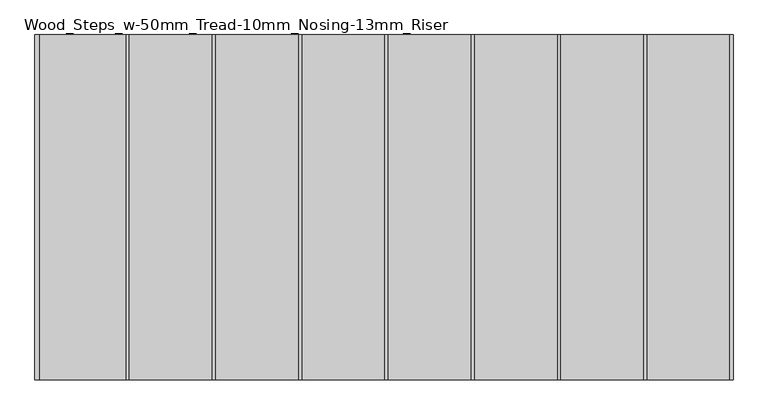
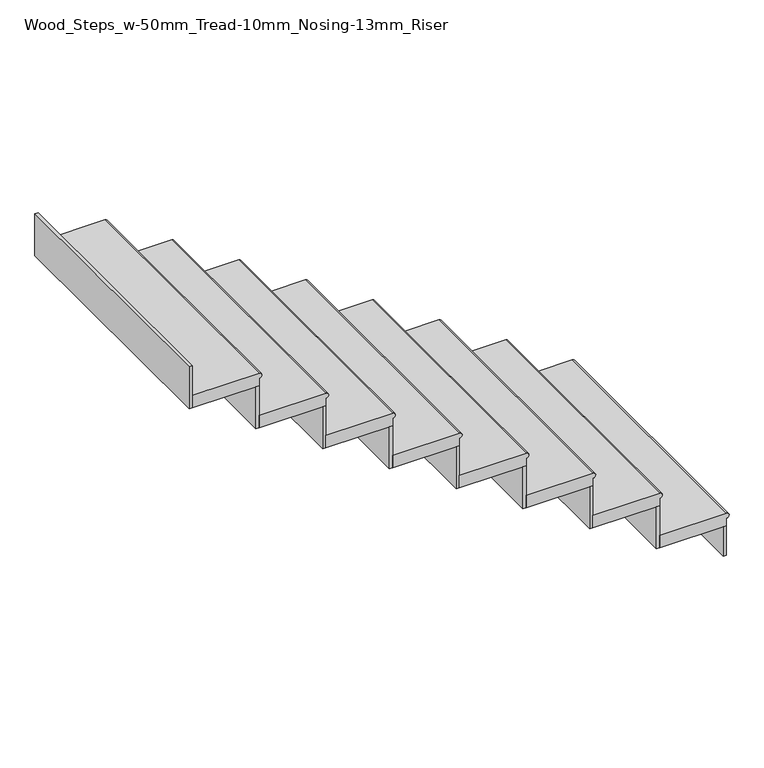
"""IFC4 building model written with IfcOpenShell, lengths in millimetres: stair flight geometry, Wood_Steps_w-50mm_Tread-10mm_Nosing-13mm_Riser."""

from ifc_helpers import new_model, si_unit, frame, origin, place, context, project, spatial, circle_curve, faceted_brep, source, transform, mapped, element, save
from ifc_brep_helpers import plane_surface, cylinder_surface, advanced_brep


def wood_steps_w_50mm_tread_10mm_nosing_13mm_riser_582ac1d6(model_context):
    return source(origin(), model_context, "Body", "SolidModel", [
        advanced_brep(
        [(-15335.9339353, 493.6800404, 2946.6666667), (-15335.9339353, 493.6800404, 2966.6666667), (-15335.9339353, -506.3199596, 2966.6666667), (-15335.9339353, -506.3199596, 2946.6666667), (-15585.9339353, -506.3199596, 2966.6666667), (-15585.9339353, 493.6800404, 2966.6666667), (-15335.9339353, -506.3199596, 2916.6666667), (-15585.9339353, -506.3199596, 2916.6666667), (-15585.9339353, 493.6800404, 2916.6666667), (-15335.9339353, 493.6800404, 2916.6666667)],
        [
            (0, 1, circle_curve(frame((-15335.9339353, 493.6800404, 2956.6666667), z_axis=(0.0, -1.0, 0.0), x_axis=(-1.0, 0.0, 0.0)), 10.0)),
            (1, 2),
            (2, 3, circle_curve(frame((-15335.9339353, -506.3199596, 2956.6666667), z_axis=(0.0, 1.0, 0.0), x_axis=(-1.0, 0.0, 0.0)), 10.0)),
            (3, 0),
            (4, 2),
            (1, 5),
            (5, 4),
            (6, 7),
            (7, 8),
            (8, 9),
            (9, 6),
            (4, 7),
            (6, 3),
            (9, 0),
            (8, 5),
        ],
        [
            cylinder_surface(frame((-15335.9339353, 493.6800404, 2956.6666667), z_axis=(0.0, 1.0, 0.0), x_axis=(-1.0, 0.0, 0.0)), 10.0),
            plane_surface(frame((-15325.9339353, -506.3199596, 2966.6666667), z_axis=(0.0, 0.0, 1.0), x_axis=(1.0, 0.0, 0.0))),
            plane_surface(frame((-15325.9339353, -506.3199596, 2916.6666667), z_axis=(0.0, 0.0, -1.0), x_axis=(-1.0, 0.0, 0.0))),
            plane_surface(frame((-15585.9339353, -506.3199596, 2966.6666667), z_axis=(0.0, -1.0, 0.0), x_axis=(0.0, 0.0, -1.0))),
            plane_surface(frame((-15335.9339353, -506.3199596, 2966.6666667), z_axis=(1.0, 0.0, 0.0), x_axis=(0.0, 0.0, -1.0))),
            plane_surface(frame((-15335.9339353, 493.6800404, 2966.6666667), z_axis=(0.0, 1.0, 0.0), x_axis=(0.0, 0.0, -1.0))),
            plane_surface(frame((-15585.9339353, 493.6800404, 2966.6666667), z_axis=(-1.0, 0.0, 0.0), x_axis=(0.0, 0.0, -1.0))),
        ],
        [
            (0, [[1, 2, 3, 4]]),
            (1, [[5, -2, 6, 7]]),
            (2, [[8, 9, 10, 11]]),
            (3, [[-5, 12, -8, 13, -3]]),
            (4, [[-11, 14, -4, -13]]),
            (5, [[-6, -1, -14, -10, 15]]),
            (6, [[-7, -15, -9, -12]]),
        ],
    ),
        faceted_brep([(-15335.9339353, 493.6800404, 2916.6666667), (-15335.9339353, 493.6800404, 2800.0), (-15348.4339353, 493.6800404, 2800.0), (-15348.4339353, 493.6800404, 2916.6666667), (-15335.9339353, -506.3199596, 2916.6666667), (-15348.4339353, -506.3199596, 2916.6666667), (-15348.4339353, -506.3199596, 2800.0), (-15335.9339353, -506.3199596, 2800.0)], [[[0, 1, 2, 3]], [[4, 5, 6, 7]], [[1, 0, 4, 7]], [[2, 1, 7, 6]], [[3, 2, 6, 5]], [[0, 3, 5, 4]]]),
        faceted_brep([(-15585.9339353, 493.6800404, 3083.3333333), (-15585.9339353, 493.6800404, 2916.6666667), (-15598.4339353, 493.6800404, 2916.6666667), (-15598.4339353, 493.6800404, 3083.3333333), (-15585.9339353, -506.3199596, 3083.3333333), (-15598.4339353, -506.3199596, 3083.3333333), (-15598.4339353, -506.3199596, 2916.6666667), (-15585.9339353, -506.3199596, 2916.6666667)], [[[0, 1, 2, 3]], [[4, 5, 6, 7]], [[1, 0, 4, 7]], [[2, 1, 7, 6]], [[3, 2, 6, 5]], [[0, 3, 5, 4]]]),
        advanced_brep(
        [(-15835.9339353, -506.3199596, 3133.3333333), (-15585.9339353, -506.3199596, 3133.3333333), (-15585.9339353, 493.6800404, 3133.3333333), (-15835.9339353, 493.6800404, 3133.3333333), (-15585.9339353, -506.3199596, 3083.3333333), (-15835.9339353, -506.3199596, 3083.3333333), (-15835.9339353, 493.6800404, 3083.3333333), (-15585.9339353, 493.6800404, 3083.3333333), (-15585.9339353, -506.3199596, 3113.3333333), (-15585.9339353, 493.6800404, 3113.3333333)],
        [
            (0, 1),
            (1, 2),
            (2, 3),
            (3, 0),
            (4, 5),
            (5, 6),
            (6, 7),
            (7, 4),
            (0, 5),
            (4, 8),
            (8, 1, circle_curve(frame((-15585.9339353, -506.3199596, 3123.3333333), z_axis=(0.0, -1.0, 0.0), x_axis=(-1.0, 0.0, 0.0)), 10.0)),
            (7, 9),
            (9, 8),
            (2, 9, circle_curve(frame((-15585.9339353, 493.6800404, 3123.3333333), z_axis=(0.0, 1.0, 0.0), x_axis=(-1.0, 0.0, 0.0)), 10.0)),
            (6, 3),
        ],
        [
            plane_surface(frame((-15325.9339353, -506.3199596, 3133.3333333), z_axis=(0.0, 0.0, 1.0), x_axis=(1.0, 0.0, 0.0))),
            plane_surface(frame((-15325.9339353, -506.3199596, 3083.3333333), z_axis=(0.0, 0.0, -1.0), x_axis=(-1.0, 0.0, 0.0))),
            plane_surface(frame((-15835.9339353, -506.3199596, 3133.3333333), z_axis=(0.0, -1.0, 0.0), x_axis=(0.0, 0.0, -1.0))),
            plane_surface(frame((-15585.9339353, -506.3199596, 3133.3333333), z_axis=(1.0, 0.0, 0.0), x_axis=(0.0, 0.0, -1.0))),
            plane_surface(frame((-15585.9339353, 493.6800404, 3133.3333333), z_axis=(0.0, 1.0, 0.0), x_axis=(0.0, 0.0, -1.0))),
            plane_surface(frame((-15835.9339353, 493.6800404, 3133.3333333), z_axis=(-1.0, 0.0, 0.0), x_axis=(0.0, 0.0, -1.0))),
            cylinder_surface(frame((-15585.9339353, 493.6800404, 3123.3333333), z_axis=(0.0, 1.0, 0.0), x_axis=(-1.0, 0.0, 0.0)), 10.0),
        ],
        [
            (0, [[1, 2, 3, 4]]),
            (1, [[5, 6, 7, 8]]),
            (2, [[-1, 9, -5, 10, 11]]),
            (3, [[-8, 12, 13, -10]]),
            (4, [[-3, 14, -12, -7, 15]]),
            (5, [[-4, -15, -6, -9]]),
            (6, [[-14, -2, -11, -13]]),
        ],
    ),
        faceted_brep([(-15835.9339353, 493.6800404, 3250.0), (-15835.9339353, 493.6800404, 3083.3333333), (-15848.4339353, 493.6800404, 3083.3333333), (-15848.4339353, 493.6800404, 3250.0), (-15835.9339353, -506.3199596, 3250.0), (-15848.4339353, -506.3199596, 3250.0), (-15848.4339353, -506.3199596, 3083.3333333), (-15835.9339353, -506.3199596, 3083.3333333)], [[[0, 1, 2, 3]], [[4, 5, 6, 7]], [[1, 0, 4, 7]], [[2, 1, 7, 6]], [[3, 2, 6, 5]], [[0, 3, 5, 4]]]),
        advanced_brep(
        [(-16085.9339353, -506.3199596, 3300.0), (-15835.9339353, -506.3199596, 3300.0), (-15835.9339353, 493.6800404, 3300.0), (-16085.9339353, 493.6800404, 3300.0), (-15835.9339353, -506.3199596, 3250.0), (-16085.9339353, -506.3199596, 3250.0), (-16085.9339353, 493.6800404, 3250.0), (-15835.9339353, 493.6800404, 3250.0), (-15835.9339353, -506.3199596, 3280.0), (-15835.9339353, 493.6800404, 3280.0)],
        [
            (0, 1),
            (1, 2),
            (2, 3),
            (3, 0),
            (4, 5),
            (5, 6),
            (6, 7),
            (7, 4),
            (0, 5),
            (4, 8),
            (8, 1, circle_curve(frame((-15835.9339353, -506.3199596, 3290.0), z_axis=(0.0, -1.0, 0.0), x_axis=(-1.0, 0.0, 0.0)), 10.0)),
            (7, 9),
            (9, 8),
            (2, 9, circle_curve(frame((-15835.9339353, 493.6800404, 3290.0), z_axis=(0.0, 1.0, 0.0), x_axis=(-1.0, 0.0, 0.0)), 10.0)),
            (6, 3),
        ],
        [
            plane_surface(frame((-15575.9339353, -506.3199596, 3300.0), z_axis=(0.0, 0.0, 1.0), x_axis=(1.0, 0.0, 0.0))),
            plane_surface(frame((-15575.9339353, -506.3199596, 3250.0), z_axis=(0.0, 0.0, -1.0), x_axis=(-1.0, 0.0, 0.0))),
            plane_surface(frame((-16085.9339353, -506.3199596, 3300.0), z_axis=(0.0, -1.0, 0.0), x_axis=(0.0, 0.0, -1.0))),
            plane_surface(frame((-15835.9339353, -506.3199596, 3300.0), z_axis=(1.0, 0.0, 0.0), x_axis=(0.0, 0.0, -1.0))),
            plane_surface(frame((-15835.9339353, 493.6800404, 3300.0), z_axis=(0.0, 1.0, 0.0), x_axis=(0.0, 0.0, -1.0))),
            plane_surface(frame((-16085.9339353, 493.6800404, 3300.0), z_axis=(-1.0, 0.0, 0.0), x_axis=(0.0, 0.0, -1.0))),
            cylinder_surface(frame((-15835.9339353, 493.6800404, 3290.0), z_axis=(0.0, 1.0, 0.0), x_axis=(-1.0, 0.0, 0.0)), 10.0),
        ],
        [
            (0, [[1, 2, 3, 4]]),
            (1, [[5, 6, 7, 8]]),
            (2, [[-1, 9, -5, 10, 11]]),
            (3, [[-8, 12, 13, -10]]),
            (4, [[-3, 14, -12, -7, 15]]),
            (5, [[-4, -15, -6, -9]]),
            (6, [[-14, -2, -11, -13]]),
        ],
    ),
        faceted_brep([(-16085.9339353, 493.6800404, 3416.6666667), (-16085.9339353, 493.6800404, 3250.0), (-16098.4339353, 493.6800404, 3250.0), (-16098.4339353, 493.6800404, 3416.6666667), (-16085.9339353, -506.3199596, 3416.6666667), (-16098.4339353, -506.3199596, 3416.6666667), (-16098.4339353, -506.3199596, 3250.0), (-16085.9339353, -506.3199596, 3250.0)], [[[0, 1, 2, 3]], [[4, 5, 6, 7]], [[1, 0, 4, 7]], [[2, 1, 7, 6]], [[3, 2, 6, 5]], [[0, 3, 5, 4]]]),
        advanced_brep(
        [(-16335.9339353, -506.3199596, 3466.6666667), (-16085.9339353, -506.3199596, 3466.6666667), (-16085.9339353, 493.6800404, 3466.6666667), (-16335.9339353, 493.6800404, 3466.6666667), (-16085.9339353, -506.3199596, 3416.6666667), (-16335.9339353, -506.3199596, 3416.6666667), (-16335.9339353, 493.6800404, 3416.6666667), (-16085.9339353, 493.6800404, 3416.6666667), (-16085.9339353, -506.3199596, 3446.6666667), (-16085.9339353, 493.6800404, 3446.6666667)],
        [
            (0, 1),
            (1, 2),
            (2, 3),
            (3, 0),
            (4, 5),
            (5, 6),
            (6, 7),
            (7, 4),
            (0, 5),
            (4, 8),
            (8, 1, circle_curve(frame((-16085.9339353, -506.3199596, 3456.6666667), z_axis=(0.0, -1.0, 0.0), x_axis=(-1.0, 0.0, 0.0)), 10.0)),
            (7, 9),
            (9, 8),
            (2, 9, circle_curve(frame((-16085.9339353, 493.6800404, 3456.6666667), z_axis=(0.0, 1.0, 0.0), x_axis=(-1.0, 0.0, 0.0)), 10.0)),
            (6, 3),
        ],
        [
            plane_surface(frame((-15825.9339353, -506.3199596, 3466.6666667), z_axis=(0.0, 0.0, 1.0), x_axis=(1.0, 0.0, 0.0))),
            plane_surface(frame((-15825.9339353, -506.3199596, 3416.6666667), z_axis=(0.0, 0.0, -1.0), x_axis=(-1.0, 0.0, 0.0))),
            plane_surface(frame((-16335.9339353, -506.3199596, 3466.6666667), z_axis=(0.0, -1.0, 0.0), x_axis=(0.0, 0.0, -1.0))),
            plane_surface(frame((-16085.9339353, -506.3199596, 3466.6666667), z_axis=(1.0, 0.0, 0.0), x_axis=(0.0, 0.0, -1.0))),
            plane_surface(frame((-16085.9339353, 493.6800404, 3466.6666667), z_axis=(0.0, 1.0, 0.0), x_axis=(0.0, 0.0, -1.0))),
            plane_surface(frame((-16335.9339353, 493.6800404, 3466.6666667), z_axis=(-1.0, 0.0, 0.0), x_axis=(0.0, 0.0, -1.0))),
            cylinder_surface(frame((-16085.9339353, 493.6800404, 3456.6666667), z_axis=(0.0, 1.0, 0.0), x_axis=(-1.0, 0.0, 0.0)), 10.0),
        ],
        [
            (0, [[1, 2, 3, 4]]),
            (1, [[5, 6, 7, 8]]),
            (2, [[-1, 9, -5, 10, 11]]),
            (3, [[-8, 12, 13, -10]]),
            (4, [[-3, 14, -12, -7, 15]]),
            (5, [[-4, -15, -6, -9]]),
            (6, [[-14, -2, -11, -13]]),
        ],
    ),
        faceted_brep([(-16335.9339353, 493.6800404, 3583.3333333), (-16335.9339353, 493.6800404, 3416.6666667), (-16348.4339353, 493.6800404, 3416.6666667), (-16348.4339353, 493.6800404, 3583.3333333), (-16335.9339353, -506.3199596, 3583.3333333), (-16348.4339353, -506.3199596, 3583.3333333), (-16348.4339353, -506.3199596, 3416.6666667), (-16335.9339353, -506.3199596, 3416.6666667)], [[[0, 1, 2, 3]], [[4, 5, 6, 7]], [[1, 0, 4, 7]], [[2, 1, 7, 6]], [[3, 2, 6, 5]], [[0, 3, 5, 4]]]),
        advanced_brep(
        [(-16585.9339353, -506.3199596, 3633.3333333), (-16335.9339353, -506.3199596, 3633.3333333), (-16335.9339353, 493.6800404, 3633.3333333), (-16585.9339353, 493.6800404, 3633.3333333), (-16335.9339353, -506.3199596, 3583.3333333), (-16585.9339353, -506.3199596, 3583.3333333), (-16585.9339353, 493.6800404, 3583.3333333), (-16335.9339353, 493.6800404, 3583.3333333), (-16335.9339353, -506.3199596, 3613.3333333), (-16335.9339353, 493.6800404, 3613.3333333)],
        [
            (0, 1),
            (1, 2),
            (2, 3),
            (3, 0),
            (4, 5),
            (5, 6),
            (6, 7),
            (7, 4),
            (0, 5),
            (4, 8),
            (8, 1, circle_curve(frame((-16335.9339353, -506.3199596, 3623.3333333), z_axis=(0.0, -1.0, 0.0), x_axis=(-1.0, 0.0, 0.0)), 10.0)),
            (7, 9),
            (9, 8),
            (2, 9, circle_curve(frame((-16335.9339353, 493.6800404, 3623.3333333), z_axis=(0.0, 1.0, 0.0), x_axis=(-1.0, 0.0, 0.0)), 10.0)),
            (6, 3),
        ],
        [
            plane_surface(frame((-16075.9339353, -506.3199596, 3633.3333333), z_axis=(0.0, 0.0, 1.0), x_axis=(1.0, 0.0, 0.0))),
            plane_surface(frame((-16075.9339353, -506.3199596, 3583.3333333), z_axis=(0.0, 0.0, -1.0), x_axis=(-1.0, 0.0, 0.0))),
            plane_surface(frame((-16585.9339353, -506.3199596, 3633.3333333), z_axis=(0.0, -1.0, 0.0), x_axis=(0.0, 0.0, -1.0))),
            plane_surface(frame((-16335.9339353, -506.3199596, 3633.3333333), z_axis=(1.0, 0.0, 0.0), x_axis=(0.0, 0.0, -1.0))),
            plane_surface(frame((-16335.9339353, 493.6800404, 3633.3333333), z_axis=(0.0, 1.0, 0.0), x_axis=(0.0, 0.0, -1.0))),
            plane_surface(frame((-16585.9339353, 493.6800404, 3633.3333333), z_axis=(-1.0, 0.0, 0.0), x_axis=(0.0, 0.0, -1.0))),
            cylinder_surface(frame((-16335.9339353, 493.6800404, 3623.3333333), z_axis=(0.0, 1.0, 0.0), x_axis=(-1.0, 0.0, 0.0)), 10.0),
        ],
        [
            (0, [[1, 2, 3, 4]]),
            (1, [[5, 6, 7, 8]]),
            (2, [[-1, 9, -5, 10, 11]]),
            (3, [[-8, 12, 13, -10]]),
            (4, [[-3, 14, -12, -7, 15]]),
            (5, [[-4, -15, -6, -9]]),
            (6, [[-14, -2, -11, -13]]),
        ],
    ),
        faceted_brep([(-16585.9339353, 493.6800404, 3750.0), (-16585.9339353, 493.6800404, 3583.3333333), (-16598.4339353, 493.6800404, 3583.3333333), (-16598.4339353, 493.6800404, 3750.0), (-16585.9339353, -506.3199596, 3750.0), (-16598.4339353, -506.3199596, 3750.0), (-16598.4339353, -506.3199596, 3583.3333333), (-16585.9339353, -506.3199596, 3583.3333333)], [[[0, 1, 2, 3]], [[4, 5, 6, 7]], [[1, 0, 4, 7]], [[2, 1, 7, 6]], [[3, 2, 6, 5]], [[0, 3, 5, 4]]]),
        advanced_brep(
        [(-16835.9339353, -506.3199596, 3800.0), (-16585.9339353, -506.3199596, 3800.0), (-16585.9339353, 493.6800404, 3800.0), (-16835.9339353, 493.6800404, 3800.0), (-16585.9339353, -506.3199596, 3750.0), (-16835.9339353, -506.3199596, 3750.0), (-16835.9339353, 493.6800404, 3750.0), (-16585.9339353, 493.6800404, 3750.0), (-16585.9339353, -506.3199596, 3780.0), (-16585.9339353, 493.6800404, 3780.0)],
        [
            (0, 1),
            (1, 2),
            (2, 3),
            (3, 0),
            (4, 5),
            (5, 6),
            (6, 7),
            (7, 4),
            (0, 5),
            (4, 8),
            (8, 1, circle_curve(frame((-16585.9339353, -506.3199596, 3790.0), z_axis=(0.0, -1.0, 0.0), x_axis=(-1.0, 0.0, 0.0)), 10.0)),
            (7, 9),
            (9, 8),
            (2, 9, circle_curve(frame((-16585.9339353, 493.6800404, 3790.0), z_axis=(0.0, 1.0, 0.0), x_axis=(-1.0, 0.0, 0.0)), 10.0)),
            (6, 3),
        ],
        [
            plane_surface(frame((-16325.9339353, -506.3199596, 3800.0), z_axis=(0.0, 0.0, 1.0), x_axis=(1.0, 0.0, 0.0))),
            plane_surface(frame((-16325.9339353, -506.3199596, 3750.0), z_axis=(0.0, 0.0, -1.0), x_axis=(-1.0, 0.0, 0.0))),
            plane_surface(frame((-16835.9339353, -506.3199596, 3800.0), z_axis=(0.0, -1.0, 0.0), x_axis=(0.0, 0.0, -1.0))),
            plane_surface(frame((-16585.9339353, -506.3199596, 3800.0), z_axis=(1.0, 0.0, 0.0), x_axis=(0.0, 0.0, -1.0))),
            plane_surface(frame((-16585.9339353, 493.6800404, 3800.0), z_axis=(0.0, 1.0, 0.0), x_axis=(0.0, 0.0, -1.0))),
            plane_surface(frame((-16835.9339353, 493.6800404, 3800.0), z_axis=(-1.0, 0.0, 0.0), x_axis=(0.0, 0.0, -1.0))),
            cylinder_surface(frame((-16585.9339353, 493.6800404, 3790.0), z_axis=(0.0, 1.0, 0.0), x_axis=(-1.0, 0.0, 0.0)), 10.0),
        ],
        [
            (0, [[1, 2, 3, 4]]),
            (1, [[5, 6, 7, 8]]),
            (2, [[-1, 9, -5, 10, 11]]),
            (3, [[-8, 12, 13, -10]]),
            (4, [[-3, 14, -12, -7, 15]]),
            (5, [[-4, -15, -6, -9]]),
            (6, [[-14, -2, -11, -13]]),
        ],
    ),
        faceted_brep([(-16835.9339353, 493.6800404, 3916.6666667), (-16835.9339353, 493.6800404, 3750.0), (-16848.4339353, 493.6800404, 3750.0), (-16848.4339353, 493.6800404, 3916.6666667), (-16835.9339353, -506.3199596, 3916.6666667), (-16848.4339353, -506.3199596, 3916.6666667), (-16848.4339353, -506.3199596, 3750.0), (-16835.9339353, -506.3199596, 3750.0)], [[[0, 1, 2, 3]], [[4, 5, 6, 7]], [[1, 0, 4, 7]], [[2, 1, 7, 6]], [[3, 2, 6, 5]], [[0, 3, 5, 4]]]),
        advanced_brep(
        [(-17085.9339353, -506.3199596, 3966.6666667), (-16835.9339353, -506.3199596, 3966.6666667), (-16835.9339353, 493.6800404, 3966.6666667), (-17085.9339353, 493.6800404, 3966.6666667), (-16835.9339353, -506.3199596, 3916.6666667), (-17085.9339353, -506.3199596, 3916.6666667), (-17085.9339353, 493.6800404, 3916.6666667), (-16835.9339353, 493.6800404, 3916.6666667), (-16835.9339353, -506.3199596, 3946.6666667), (-16835.9339353, 493.6800404, 3946.6666667)],
        [
            (0, 1),
            (1, 2),
            (2, 3),
            (3, 0),
            (4, 5),
            (5, 6),
            (6, 7),
            (7, 4),
            (0, 5),
            (4, 8),
            (8, 1, circle_curve(frame((-16835.9339353, -506.3199596, 3956.6666667), z_axis=(0.0, -1.0, 0.0), x_axis=(-1.0, 0.0, 0.0)), 10.0)),
            (7, 9),
            (9, 8),
            (2, 9, circle_curve(frame((-16835.9339353, 493.6800404, 3956.6666667), z_axis=(0.0, 1.0, 0.0), x_axis=(-1.0, 0.0, 0.0)), 10.0)),
            (6, 3),
        ],
        [
            plane_surface(frame((-16575.9339353, -506.3199596, 3966.6666667), z_axis=(0.0, 0.0, 1.0), x_axis=(1.0, 0.0, 0.0))),
            plane_surface(frame((-16575.9339353, -506.3199596, 3916.6666667), z_axis=(0.0, 0.0, -1.0), x_axis=(-1.0, 0.0, 0.0))),
            plane_surface(frame((-17085.9339353, -506.3199596, 3966.6666667), z_axis=(0.0, -1.0, 0.0), x_axis=(0.0, 0.0, -1.0))),
            plane_surface(frame((-16835.9339353, -506.3199596, 3966.6666667), z_axis=(1.0, 0.0, 0.0), x_axis=(0.0, 0.0, -1.0))),
            plane_surface(frame((-16835.9339353, 493.6800404, 3966.6666667), z_axis=(0.0, 1.0, 0.0), x_axis=(0.0, 0.0, -1.0))),
            plane_surface(frame((-17085.9339353, 493.6800404, 3966.6666667), z_axis=(-1.0, 0.0, 0.0), x_axis=(0.0, 0.0, -1.0))),
            cylinder_surface(frame((-16835.9339353, 493.6800404, 3956.6666667), z_axis=(0.0, 1.0, 0.0), x_axis=(-1.0, 0.0, 0.0)), 10.0),
        ],
        [
            (0, [[1, 2, 3, 4]]),
            (1, [[5, 6, 7, 8]]),
            (2, [[-1, 9, -5, 10, 11]]),
            (3, [[-8, 12, 13, -10]]),
            (4, [[-3, 14, -12, -7, 15]]),
            (5, [[-4, -15, -6, -9]]),
            (6, [[-14, -2, -11, -13]]),
        ],
    ),
        faceted_brep([(-17335.9339353, 493.6800404, 4250.0), (-17335.9339353, 493.6800404, 4083.3333333), (-17348.4339353, 493.6800404, 4083.3333333), (-17348.4339353, 493.6800404, 4250.0), (-17335.9339353, -506.3199596, 4250.0), (-17348.4339353, -506.3199596, 4250.0), (-17348.4339353, -506.3199596, 4083.3333333), (-17335.9339353, -506.3199596, 4083.3333333)], [[[0, 1, 2, 3]], [[4, 5, 6, 7]], [[1, 0, 4, 7]], [[2, 1, 7, 6]], [[3, 2, 6, 5]], [[0, 3, 5, 4]]]),
        faceted_brep([(-17085.9339353, 493.6800404, 4083.3333333), (-17085.9339353, 493.6800404, 3916.6666667), (-17098.4339353, 493.6800404, 3916.6666667), (-17098.4339353, 493.6800404, 4083.3333333), (-17085.9339353, -506.3199596, 4083.3333333), (-17098.4339353, -506.3199596, 4083.3333333), (-17098.4339353, -506.3199596, 3916.6666667), (-17085.9339353, -506.3199596, 3916.6666667)], [[[0, 1, 2, 3]], [[4, 5, 6, 7]], [[1, 0, 4, 7]], [[2, 1, 7, 6]], [[3, 2, 6, 5]], [[0, 3, 5, 4]]]),
        advanced_brep(
        [(-17335.9339353, -506.3199596, 4133.3333333), (-17085.9339353, -506.3199596, 4133.3333333), (-17085.9339353, 493.6800404, 4133.3333333), (-17325.9339353, 493.6800404, 4133.3333333), (-17335.9339353, 493.6800404, 4133.3333333), (-17085.9339353, -506.3199596, 4083.3333333), (-17335.9339353, -506.3199596, 4083.3333333), (-17335.9339353, 493.6800404, 4083.3333333), (-17325.9339353, 493.6800404, 4083.3333333), (-17085.9339353, 493.6800404, 4083.3333333), (-17085.9339353, -506.3199596, 4113.3333333), (-17085.9339353, 493.6800404, 4113.3333333)],
        [
            (0, 1),
            (1, 2),
            (2, 3),
            (3, 4),
            (4, 0),
            (5, 6),
            (6, 7),
            (7, 8),
            (8, 9),
            (9, 5),
            (0, 6),
            (5, 10),
            (10, 1, circle_curve(frame((-17085.9339353, -506.3199596, 4123.3333333), z_axis=(0.0, -1.0, 0.0), x_axis=(-1.0, 0.0, 0.0)), 10.0)),
            (9, 11),
            (11, 10),
            (2, 11, circle_curve(frame((-17085.9339353, 493.6800404, 4123.3333333), z_axis=(0.0, 1.0, 0.0), x_axis=(-1.0, 0.0, 0.0)), 10.0)),
            (8, 3),
            (7, 4),
        ],
        [
            plane_surface(frame((-15325.9339353, -506.3199596, 4133.3333333), z_axis=(0.0, 0.0, 1.0), x_axis=(1.0, 0.0, 0.0))),
            plane_surface(frame((-15325.9339353, -506.3199596, 4083.3333333), z_axis=(0.0, 0.0, -1.0), x_axis=(-1.0, 0.0, 0.0))),
            plane_surface(frame((-17335.9339353, -506.3199596, 4133.3333333), z_axis=(0.0, -1.0, 0.0), x_axis=(0.0, 0.0, -1.0))),
            plane_surface(frame((-17085.9339353, -506.3199596, 4133.3333333), z_axis=(1.0, 0.0, 0.0), x_axis=(0.0, 0.0, -1.0))),
            plane_surface(frame((-17085.9339353, 493.6800404, 4133.3333333), z_axis=(0.0, 1.0, 0.0), x_axis=(0.0, 0.0, -1.0))),
            plane_surface(frame((-17325.9339353, 493.6800404, 4133.3333333), z_axis=(0.0, 1.0, 0.0), x_axis=(0.0, 0.0, -1.0))),
            plane_surface(frame((-17335.9339353, 493.6800404, 4133.3333333), z_axis=(-1.0, 0.0, 0.0), x_axis=(0.0, 0.0, -1.0))),
            cylinder_surface(frame((-17085.9339353, 493.6800404, 4123.3333333), z_axis=(0.0, 1.0, 0.0), x_axis=(-1.0, 0.0, 0.0)), 10.0),
        ],
        [
            (0, [[1, 2, 3, 4, 5]]),
            (1, [[6, 7, 8, 9, 10]]),
            (2, [[-1, 11, -6, 12, 13]]),
            (3, [[-10, 14, 15, -12]]),
            (4, [[-3, 16, -14, -9, 17]]),
            (5, [[-4, -17, -8, 18]]),
            (6, [[-5, -18, -7, -11]]),
            (7, [[-16, -2, -13, -15]]),
        ],
    ),
    ])


if __name__ == "__main__":
    model = new_model("IFC4")
    model_context = context("Model", 3, world=origin())
    ifc_project = project(units=[si_unit("LENGTHUNIT", "METRE", prefix="MILLI")], contexts=[model_context])
    site = spatial("IfcSite", under=ifc_project)
    building = spatial("IfcBuilding", under=site)
    placement = place(None, origin())
    wood_steps_w_50mm_tread_10mm_nosing_13mm_riser_shape = wood_steps_w_50mm_tread_10mm_nosing_13mm_riser_582ac1d6(model_context)
    element("IfcStairFlight", 1, ObjectType="Wood_Steps_w-50mm_Tread-10mm_Nosing-13mm_Riser", at=placement, inside=building, context=model_context, shape_type="MappedRepresentation", body=[
        mapped(wood_steps_w_50mm_tread_10mm_nosing_13mm_riser_shape, transform((0.0, 0.0, 0.0), x_axis=(1.0, 0.0, 0.0), y_axis=(0.0, 1.0, 0.0), z_axis=(0.0, 0.0, 1.0))),
    ])
    save(model, "model.ifc")
